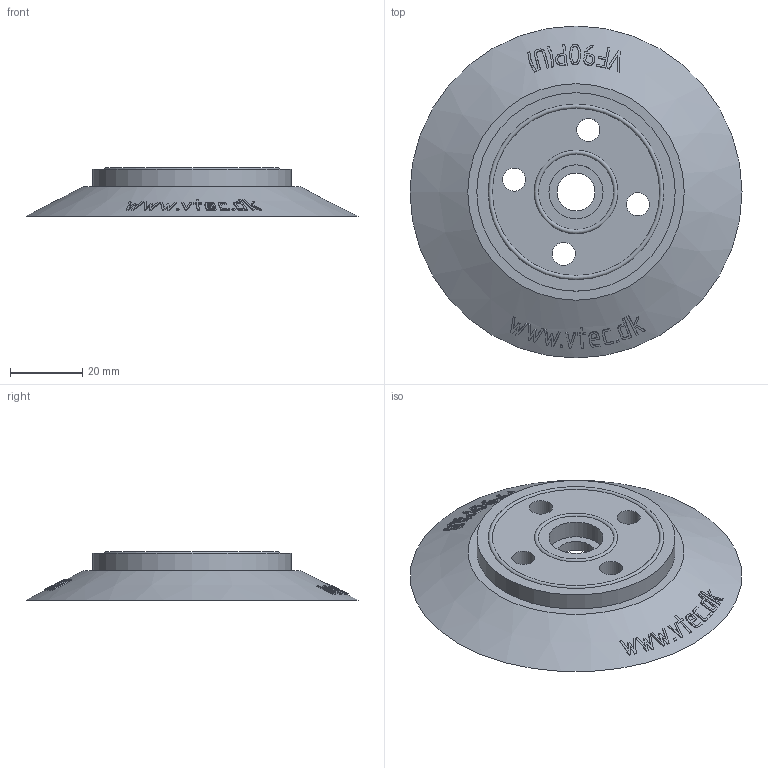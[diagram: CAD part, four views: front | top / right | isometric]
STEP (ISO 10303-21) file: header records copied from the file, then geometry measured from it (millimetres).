
FILE_DESCRIPTION( ( 'Unknown' ), '1' );
FILE_NAME( 'C:/Documents and Settings/owner/官帕 拳搁/MISUMI/PAD/VF/VF90-PU.stp', 'Unknown', ( 'Unknown' ), ( 'Unknown' ), 'XStep 1.0', 'Unknown', ' ' );
FILE_SCHEMA( ( 'automotive_design' ) );
Length unit declared in the file: millimetre
Products named in the file (2): Assem1; 1
Bounding box: 92 x 92 x 13.4 mm (x, y, z)
Volume: 54388 mm3; surface area: 34200.4 mm2
Topology: 2 solids, 2 shells, 1048 faces, 2914 edges, 1928 vertices
Faces by surface type: plane 618, cylinder 206, bspline 128, cone 56, extrusion 36, torus 4
Full cylindrical faces by diameter (mm): 6.4 x8, 10.5 x2, 15 x2, 55 x2
Entity records: 27568 total; most frequent: CARTESIAN_POINT 10589, ORIENTED_EDGE 2858, DIRECTION 2291, EDGE_CURVE 1429, VERTEX_POINT 951, VECTOR 853, LINE 835, AXIS2_PLACEMENT_3D 719
